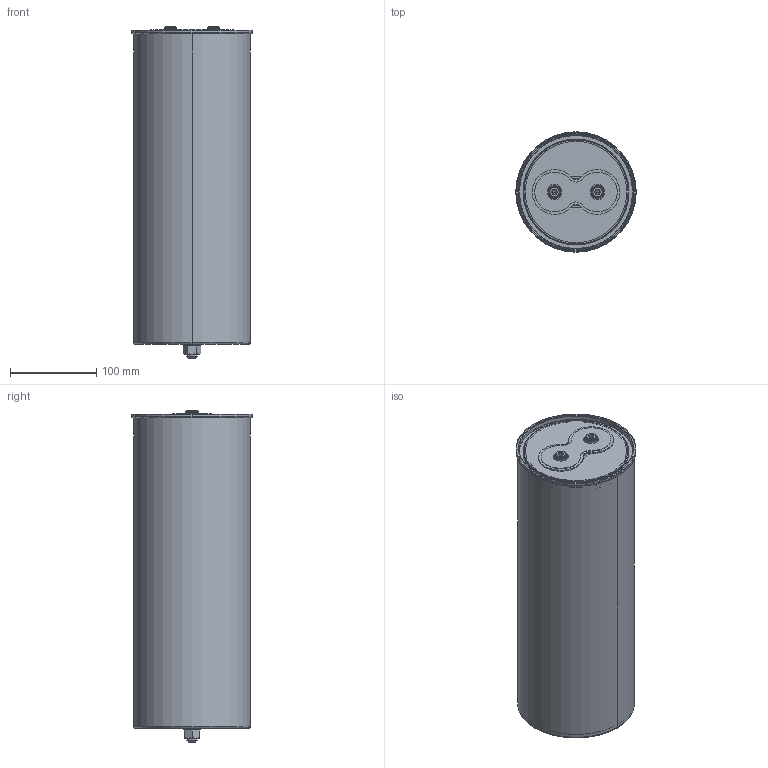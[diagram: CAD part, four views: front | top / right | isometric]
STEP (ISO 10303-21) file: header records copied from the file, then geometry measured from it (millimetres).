
FILE_DESCRIPTION (( 'STEP AP203' ), '1' );
FILE_NAME ('B25680Bx_136x365_370.STEP', '2021-09-30T07:35:21', ( '' ), ( '' ), 'SwSTEP 2.0', 'SolidWorks 2017', '' );
FILE_SCHEMA (( 'CONFIG_CONTROL_DESIGN' ));
Length unit declared in the file: millimetre
Products named in the file (1): B25680Bx_136x365_370
Bounding box: 140 x 140 x 386 mm (x, y, z)
Volume: 231877.3 mm3; surface area: 398021.8 mm2
Topology: 1 solids, 8 shells, 381 faces, 906 edges, 572 vertices
Faces by surface type: plane 151, cylinder 140, cone 34, torus 32, bspline 24
Entity records: 14153 total; most frequent: CARTESIAN_POINT 5048, DIRECTION 2028, ORIENTED_EDGE 1804, EDGE_CURVE 902, AXIS2_PLACEMENT_3D 820, VERTEX_POINT 572, CIRCLE 462, EDGE_LOOP 430
